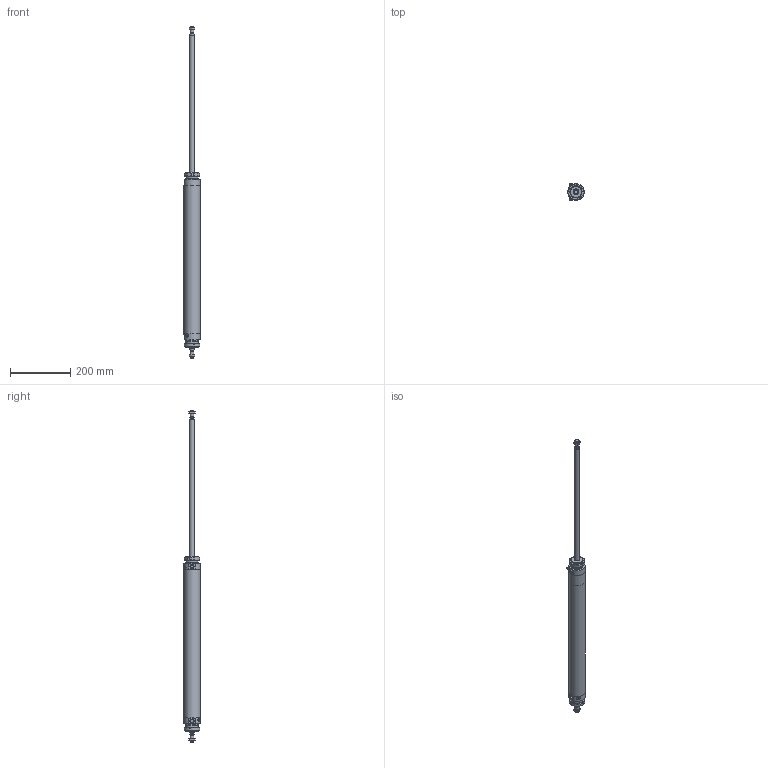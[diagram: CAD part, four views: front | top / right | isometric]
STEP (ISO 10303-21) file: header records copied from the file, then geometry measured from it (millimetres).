
FILE_DESCRIPTION(/* description */ (''),/* implementation_level */ '2;1');
FILE_NAME(/* name */ 'I:\Area Tecnica\Documenti\A-Manieri\_Inventor\12X\12X#S_###_####_#_#\12XDS_050_0450_#_#.stp',/* time_stamp */ '2015-05-13T08:20:57+02:00',/* author */ ('maniean1'),/* organization */ ('Pneumax S.p.A.'),/* preprocessor_version */ 'ST-DEVELOPER v15.2',/* originating_system */ 'Autodesk Inventor 2014',/* authorisation */ '');
FILE_SCHEMA (('AUTOMOTIVE_DESIGN { 1 0 10303 214 3 1 1 }'));
Length unit declared in the file: millimetre
Products named in the file (6): C1250_619-0450; 12X50_606; SP12X50_0450; 12X_50_11; G12X_050_05; 12XDS_050_0450_#_#
Bounding box: 54 x 57.75 x 1102 mm (x, y, z)
Volume: 607034.3 mm3; surface area: 261625.1 mm2
Topology: 8 solids, 8 shells, 151 faces, 345 edges, 222 vertices
Faces by surface type: plane 78, cylinder 37, cone 34, torus 2
Full cylindrical faces by diameter (mm): 5 x2, 10.2 x2, 11 x2, 11.4 x2, 12 x4, 14 x2, 15.6 x2, 16 x2, 38.2 x2, 40 x6, 50 x2, 54 x3
Entity records: 2556 total; most frequent: CARTESIAN_POINT 505, DIRECTION 428, ORIENTED_EDGE 342, AXIS2_PLACEMENT_3D 182, EDGE_CURVE 171, EDGE_LOOP 144, VERTEX_POINT 129, ADVANCED_FACE 94
